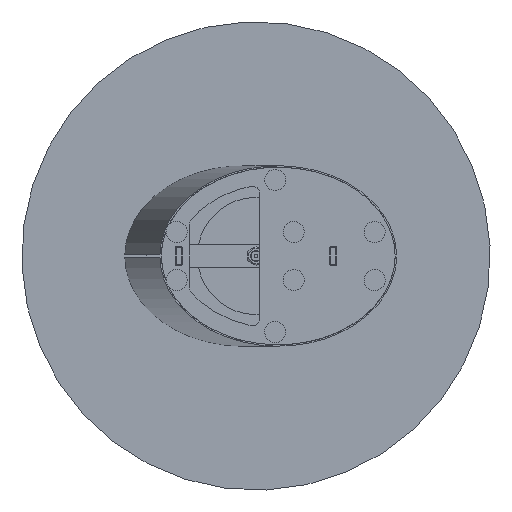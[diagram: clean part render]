
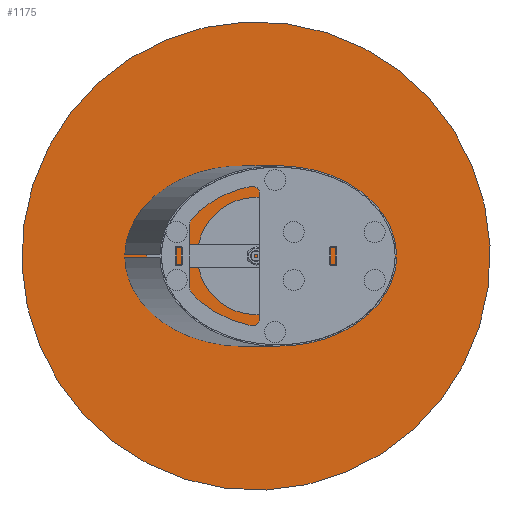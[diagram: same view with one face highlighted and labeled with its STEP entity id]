
A CAD part, front view. The second image highlights one B-rep face of the part: STEP entity #1175.
In plain terms, the highlighted planar face has unit normal (0, -1, 0).
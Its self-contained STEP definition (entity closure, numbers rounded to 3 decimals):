
#4 = CARTESIAN_POINT ( 'NONE',  ( 0., 0., 0. ) ) ;
#414 = DIRECTION ( 'NONE',  ( 0., 0., -1. ) ) ;
#474 = EDGE_LOOP ( 'NONE', ( #1088, #1534 ) ) ;
#477 = CIRCLE ( 'NONE', #4883, 500. ) ;
#1088 = ORIENTED_EDGE ( 'NONE', *, *, #1747, .T. ) ;
#1175 = ADVANCED_FACE ( 'NONE', ( #3024 ), #4218, .T. ) ;
#1298 = AXIS2_PLACEMENT_3D ( 'NONE', #8308, #3661, #5637 ) ;
#1450 = EDGE_CURVE ( 'NONE', #6956, #7883, #7631, .T. ) ;
#1534 = ORIENTED_EDGE ( 'NONE', *, *, #1450, .T. ) ;
#1747 = EDGE_CURVE ( 'NONE', #7883, #6956, #477, .T. ) ;
#1983 = DIRECTION ( 'NONE',  ( 0., 0., -1. ) ) ;
#2346 = CARTESIAN_POINT ( 'NONE',  ( 0., 0., 500. ) ) ;
#2634 = DIRECTION ( 'NONE',  ( 0., -1., 0. ) ) ;
#2924 = DIRECTION ( 'NONE',  ( 0., -1., 0. ) ) ;
#2996 = CARTESIAN_POINT ( 'NONE',  ( 0., 0., -500. ) ) ;
#3024 = FACE_OUTER_BOUND ( 'NONE', #474, .T. ) ;
#3661 = DIRECTION ( 'NONE',  ( 0., -1., 0. ) ) ;
#3787 = AXIS2_PLACEMENT_3D ( 'NONE', #6318, #2924, #414 ) ;
#4218 = PLANE ( 'NONE',  #1298 ) ;
#4883 = AXIS2_PLACEMENT_3D ( 'NONE', #4, #2634, #1983 ) ;
#5637 = DIRECTION ( 'NONE',  ( 0., 0., -1. ) ) ;
#6318 = CARTESIAN_POINT ( 'NONE',  ( 0., 0., 0. ) ) ;
#6956 = VERTEX_POINT ( 'NONE', #2346 ) ;
#7631 = CIRCLE ( 'NONE', #3787, 500. ) ;
#7883 = VERTEX_POINT ( 'NONE', #2996 ) ;
#8308 = CARTESIAN_POINT ( 'NONE',  ( 0., 0., 0. ) ) ;
